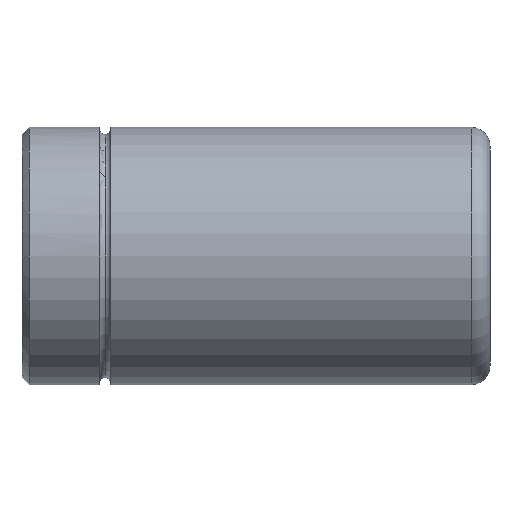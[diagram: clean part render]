
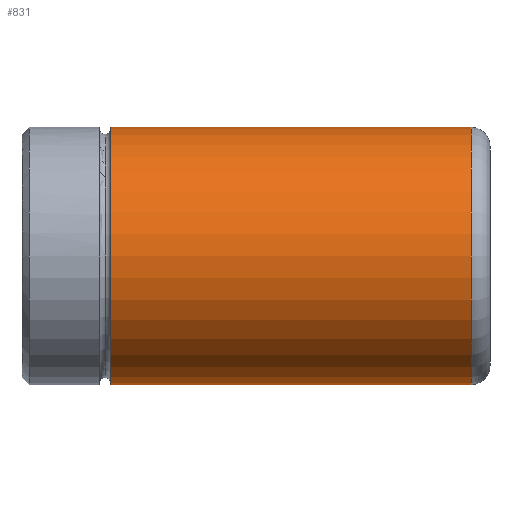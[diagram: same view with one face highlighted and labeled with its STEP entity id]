
A CAD part, front view. The second image highlights one B-rep face of the part: STEP entity #831.
In plain terms, the highlighted cylindrical face has radius 27.5 mm (diameter 55 mm), a partial arc.
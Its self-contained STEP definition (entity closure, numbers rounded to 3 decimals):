
#647=CARTESIAN_POINT('Vertex',(18.975,0.,27.5)) ;
#654=CARTESIAN_POINT('Vertex',(18.975,0.,-27.5)) ;
#680=CARTESIAN_POINT('Axis2P3D Location',(18.975,0.,0.)) ;
#684=CARTESIAN_POINT('Vertex',(18.975,-27.5,0.)) ;
#687=CARTESIAN_POINT('Axis2P3D Location',(18.975,0.,0.)) ;
#771=CARTESIAN_POINT('Line Origine',(100.,0.,27.5)) ;
#775=CARTESIAN_POINT('Vertex',(96.,0.,27.5)) ;
#789=CARTESIAN_POINT('Vertex',(96.,0.,-27.5)) ;
#792=CARTESIAN_POINT('Line Origine',(100.,0.,-27.5)) ;
#806=CARTESIAN_POINT('Axis2P3D Location',(100.,0.,0.)) ;
#811=CARTESIAN_POINT('Axis2P3D Location',(96.,0.,0.)) ;
#815=CARTESIAN_POINT('Vertex',(96.,-27.5,0.)) ;
#818=CARTESIAN_POINT('Axis2P3D Location',(96.,0.,0.)) ;
#681=DIRECTION('Axis2P3D Direction',(1.,-0.,0.)) ;
#688=DIRECTION('Axis2P3D Direction',(1.,-0.,0.)) ;
#772=DIRECTION('Vector Direction',(-1.,0.,0.)) ;
#793=DIRECTION('Vector Direction',(-1.,0.,0.)) ;
#807=DIRECTION('Axis2P3D Direction',(-1.,-0.,-0.)) ;
#808=DIRECTION('Axis2P3D XDirection',(0.,0.,-1.)) ;
#812=DIRECTION('Axis2P3D Direction',(-1.,-0.,-0.)) ;
#819=DIRECTION('Axis2P3D Direction',(-1.,-0.,-0.)) ;
#682=AXIS2_PLACEMENT_3D('Circle Axis2P3D',#680,#681,$) ;
#689=AXIS2_PLACEMENT_3D('Circle Axis2P3D',#687,#688,$) ;
#809=AXIS2_PLACEMENT_3D('Cylinder Axis2P3D',#806,#807,#808) ;
#813=AXIS2_PLACEMENT_3D('Circle Axis2P3D',#811,#812,$) ;
#820=AXIS2_PLACEMENT_3D('Circle Axis2P3D',#818,#819,$) ;
#824=ORIENTED_EDGE('',*,*,#796,.T.) ;
#825=ORIENTED_EDGE('',*,*,#817,.F.) ;
#826=ORIENTED_EDGE('',*,*,#822,.F.) ;
#827=ORIENTED_EDGE('',*,*,#777,.T.) ;
#828=ORIENTED_EDGE('',*,*,#691,.T.) ;
#829=ORIENTED_EDGE('',*,*,#686,.T.) ;
#773=VECTOR('Line Direction',#772,1.) ;
#794=VECTOR('Line Direction',#793,1.) ;
#831=ADVANCED_FACE('343-41 x 100',(#830),#810,.T.) ;
#683=CIRCLE('generated circle',#682,27.5) ;
#690=CIRCLE('generated circle',#689,27.5) ;
#814=CIRCLE('generated circle',#813,27.5) ;
#821=CIRCLE('generated circle',#820,27.5) ;
#810=CYLINDRICAL_SURFACE('generated cylinder',#809,27.5) ;
#686=EDGE_CURVE('',#685,#655,#683,.T.) ;
#691=EDGE_CURVE('',#648,#685,#690,.T.) ;
#777=EDGE_CURVE('',#776,#648,#774,.T.) ;
#796=EDGE_CURVE('',#655,#790,#795,.F.) ;
#817=EDGE_CURVE('',#816,#790,#814,.F.) ;
#822=EDGE_CURVE('',#776,#816,#821,.F.) ;
#823=EDGE_LOOP('',(#824,#825,#826,#827,#828,#829)) ;
#830=FACE_OUTER_BOUND('',#823,.T.) ;
#774=LINE('Line',#771,#773) ;
#795=LINE('Line',#792,#794) ;
#648=VERTEX_POINT('',#647) ;
#655=VERTEX_POINT('',#654) ;
#685=VERTEX_POINT('',#684) ;
#776=VERTEX_POINT('',#775) ;
#790=VERTEX_POINT('',#789) ;
#816=VERTEX_POINT('',#815) ;
